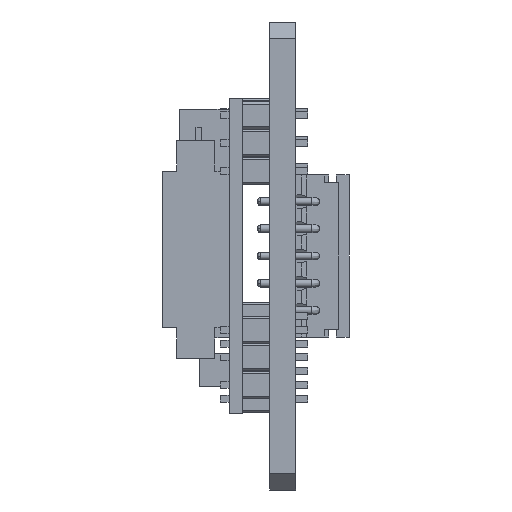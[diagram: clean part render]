
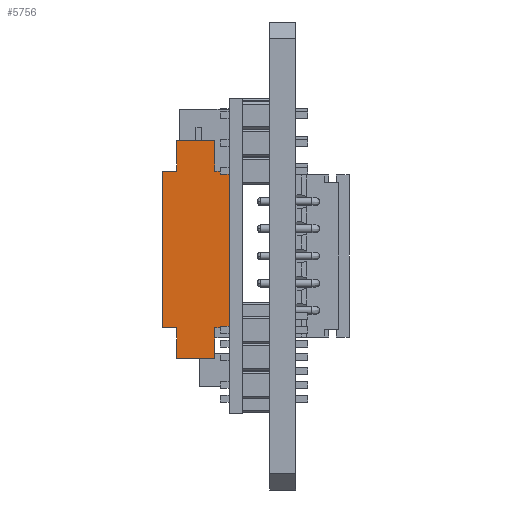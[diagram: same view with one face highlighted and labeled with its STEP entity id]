
A CAD part, left-side view. The second image highlights one B-rep face of the part: STEP entity #5756.
In plain terms, the highlighted planar face has unit normal (-1, 0, 0).
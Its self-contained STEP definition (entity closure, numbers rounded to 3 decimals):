
#744 = VERTEX_POINT ( 'NONE', #9677 ) ;
#747 = VERTEX_POINT ( 'NONE', #9679 ) ;
#749 = VERTEX_POINT ( 'NONE', #9685 ) ;
#751 = VERTEX_POINT ( 'NONE', #9687 ) ;
#754 = VERTEX_POINT ( 'NONE', #9691 ) ;
#767 = VERTEX_POINT ( 'NONE', #9705 ) ;
#768 = VERTEX_POINT ( 'NONE', #9707 ) ;
#770 = VERTEX_POINT ( 'NONE', #9709 ) ;
#781 = VERTEX_POINT ( 'NONE', #9721 ) ;
#784 = VERTEX_POINT ( 'NONE', #9725 ) ;
#1211 = EDGE_CURVE ( 'NONE', #14125, #14117, #5188, .T. ) ;
#1896 = EDGE_LOOP ( 'NONE', ( #7894, #7416, #7415, #7414, #7413, #7920, #7918, #7689, #8063, #7687, #8061, #8059 ) ) ;
#5188 = LINE ( 'NONE', #5190, #17913 ) ;
#5190 = CARTESIAN_POINT ( 'NONE',  ( -22.75, 6.14, 10.6 ) ) ;
#5191 = DIRECTION ( 'NONE',  ( 0., 0., 1. ) ) ;
#5756 = ADVANCED_FACE ( 'NONE', ( #14776 ), #14777, .F. ) ;
#7413 = ORIENTED_EDGE ( 'NONE', *, *, #11903, .F. ) ;
#7414 = ORIENTED_EDGE ( 'NONE', *, *, #11904, .F. ) ;
#7415 = ORIENTED_EDGE ( 'NONE', *, *, #11905, .F. ) ;
#7416 = ORIENTED_EDGE ( 'NONE', *, *, #11906, .F. ) ;
#7687 = ORIENTED_EDGE ( 'NONE', *, *, #11898, .T. ) ;
#7689 = ORIENTED_EDGE ( 'NONE', *, *, #11900, .F. ) ;
#7894 = ORIENTED_EDGE ( 'NONE', *, *, #1211, .T. ) ;
#7918 = ORIENTED_EDGE ( 'NONE', *, *, #11901, .F. ) ;
#7920 = ORIENTED_EDGE ( 'NONE', *, *, #11902, .F. ) ;
#8059 = ORIENTED_EDGE ( 'NONE', *, *, #11896, .F. ) ;
#8061 = ORIENTED_EDGE ( 'NONE', *, *, #11897, .F. ) ;
#8063 = ORIENTED_EDGE ( 'NONE', *, *, #11899, .F. ) ;
#9677 = CARTESIAN_POINT ( 'NONE',  ( -22.75, 7.44, -9.4 ) ) ;
#9679 = CARTESIAN_POINT ( 'NONE',  ( -22.75, 7.44, -6.6 ) ) ;
#9685 = CARTESIAN_POINT ( 'NONE',  ( -22.75, 10.94, -9.4 ) ) ;
#9687 = CARTESIAN_POINT ( 'NONE',  ( -22.75, 10.94, -6.6 ) ) ;
#9691 = CARTESIAN_POINT ( 'NONE',  ( -22.75, 10.94, 10.6 ) ) ;
#9705 = CARTESIAN_POINT ( 'NONE',  ( -22.75, 12.24, -6.6 ) ) ;
#9707 = CARTESIAN_POINT ( 'NONE',  ( -22.75, 10.94, 7.8 ) ) ;
#9709 = CARTESIAN_POINT ( 'NONE',  ( -22.75, 7.44, 7.8 ) ) ;
#9721 = CARTESIAN_POINT ( 'NONE',  ( -22.75, 12.24, 7.8 ) ) ;
#9725 = CARTESIAN_POINT ( 'NONE',  ( -22.75, 7.44, 10.6 ) ) ;
#11896 = EDGE_CURVE ( 'NONE', #14125, #747, #12182, .T. ) ;
#11897 = EDGE_CURVE ( 'NONE', #747, #744, #12185, .T. ) ;
#11898 = EDGE_CURVE ( 'NONE', #749, #744, #12188, .T. ) ;
#11899 = EDGE_CURVE ( 'NONE', #749, #751, #12191, .T. ) ;
#11900 = EDGE_CURVE ( 'NONE', #751, #767, #12194, .T. ) ;
#11901 = EDGE_CURVE ( 'NONE', #767, #781, #12197, .T. ) ;
#11902 = EDGE_CURVE ( 'NONE', #781, #768, #12200, .T. ) ;
#11903 = EDGE_CURVE ( 'NONE', #768, #754, #12203, .T. ) ;
#11904 = EDGE_CURVE ( 'NONE', #754, #784, #12206, .T. ) ;
#11905 = EDGE_CURVE ( 'NONE', #784, #770, #12209, .T. ) ;
#11906 = EDGE_CURVE ( 'NONE', #770, #14117, #12212, .T. ) ;
#12182 = LINE ( 'NONE', #12183, #19565 ) ;
#12183 = CARTESIAN_POINT ( 'NONE',  ( -22.75, 6.14, -6.6 ) ) ;
#12184 = DIRECTION ( 'NONE',  ( 0., 1., 0. ) ) ;
#12185 = LINE ( 'NONE', #12186, #19624 ) ;
#12186 = CARTESIAN_POINT ( 'NONE',  ( -22.75, 7.44, -9.4 ) ) ;
#12187 = DIRECTION ( 'NONE',  ( 0., 0., -1. ) ) ;
#12188 = LINE ( 'NONE', #12189, #19558 ) ;
#12189 = CARTESIAN_POINT ( 'NONE',  ( -22.75, 12.24, -9.4 ) ) ;
#12190 = DIRECTION ( 'NONE',  ( 0., -1., 0. ) ) ;
#12191 = LINE ( 'NONE', #12192, #19521 ) ;
#12192 = CARTESIAN_POINT ( 'NONE',  ( -22.75, 10.94, -9.4 ) ) ;
#12193 = DIRECTION ( 'NONE',  ( 0., 0., 1. ) ) ;
#12194 = LINE ( 'NONE', #12195, #19535 ) ;
#12195 = CARTESIAN_POINT ( 'NONE',  ( -22.75, 12.24, -6.6 ) ) ;
#12196 = DIRECTION ( 'NONE',  ( 0., 1., 0. ) ) ;
#12197 = LINE ( 'NONE', #12198, #19603 ) ;
#12198 = CARTESIAN_POINT ( 'NONE',  ( -22.75, 12.24, 10.6 ) ) ;
#12199 = DIRECTION ( 'NONE',  ( 0., 0., 1. ) ) ;
#12200 = LINE ( 'NONE', #12201, #19511 ) ;
#12201 = CARTESIAN_POINT ( 'NONE',  ( -22.75, 12.24, 7.8 ) ) ;
#12202 = DIRECTION ( 'NONE',  ( 0., -1., 0. ) ) ;
#12203 = LINE ( 'NONE', #12204, #19553 ) ;
#12204 = CARTESIAN_POINT ( 'NONE',  ( -22.75, 10.94, 10.6 ) ) ;
#12205 = DIRECTION ( 'NONE',  ( 0., 0., 1. ) ) ;
#12206 = LINE ( 'NONE', #12207, #19633 ) ;
#12207 = CARTESIAN_POINT ( 'NONE',  ( -22.75, 12.24, 10.6 ) ) ;
#12208 = DIRECTION ( 'NONE',  ( 0., -1., 0. ) ) ;
#12209 = LINE ( 'NONE', #12210, #19546 ) ;
#12210 = CARTESIAN_POINT ( 'NONE',  ( -22.75, 7.44, 10.6 ) ) ;
#12211 = DIRECTION ( 'NONE',  ( 0., 0., -1. ) ) ;
#12212 = LINE ( 'NONE', #12213, #19579 ) ;
#12213 = CARTESIAN_POINT ( 'NONE',  ( -22.75, 6.14, 7.8 ) ) ;
#12214 = DIRECTION ( 'NONE',  ( 0., -1., 0. ) ) ;
#14117 = VERTEX_POINT ( 'NONE', #18897 ) ;
#14125 = VERTEX_POINT ( 'NONE', #18905 ) ;
#14768 = CARTESIAN_POINT ( 'NONE',  ( -22.75, 12.24, 10.6 ) ) ;
#14776 = FACE_OUTER_BOUND ( 'NONE', #1896, .T. ) ;
#14777 = PLANE ( 'NONE',  #15754 ) ;
#14779 = DIRECTION ( 'NONE',  ( 1., 0., 0. ) ) ;
#14780 = DIRECTION ( 'NONE',  ( 0., 0., -1. ) ) ;
#15754 = AXIS2_PLACEMENT_3D ( 'NONE', #14768, #14779, #14780 ) ;
#17913 = VECTOR ( 'NONE', #5191, 1000. ) ;
#18897 = CARTESIAN_POINT ( 'NONE',  ( -22.75, 6.14, 7.8 ) ) ;
#18905 = CARTESIAN_POINT ( 'NONE',  ( -22.75, 6.14, -6.6 ) ) ;
#19511 = VECTOR ( 'NONE', #12202, 1000. ) ;
#19521 = VECTOR ( 'NONE', #12193, 1000. ) ;
#19535 = VECTOR ( 'NONE', #12196, 1000. ) ;
#19546 = VECTOR ( 'NONE', #12211, 1000. ) ;
#19553 = VECTOR ( 'NONE', #12205, 1000. ) ;
#19558 = VECTOR ( 'NONE', #12190, 1000. ) ;
#19565 = VECTOR ( 'NONE', #12184, 1000. ) ;
#19579 = VECTOR ( 'NONE', #12214, 1000. ) ;
#19603 = VECTOR ( 'NONE', #12199, 1000. ) ;
#19624 = VECTOR ( 'NONE', #12187, 1000. ) ;
#19633 = VECTOR ( 'NONE', #12208, 1000. ) ;
